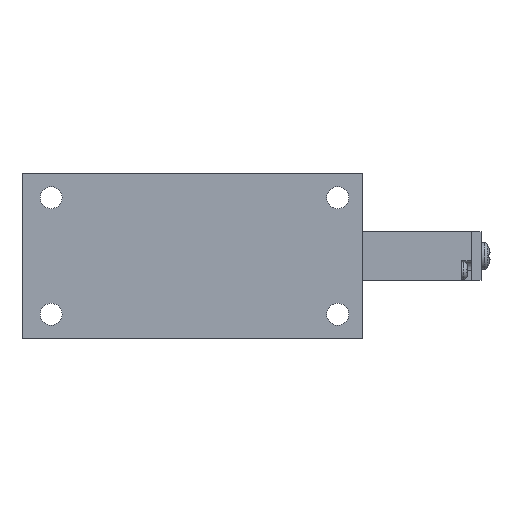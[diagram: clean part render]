
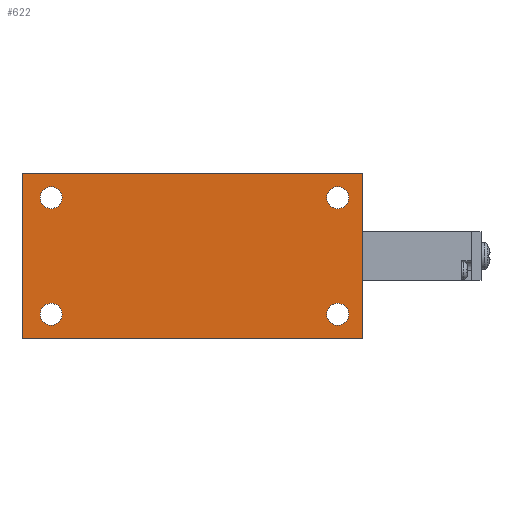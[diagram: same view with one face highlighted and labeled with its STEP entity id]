
A CAD part, front view. The second image highlights one B-rep face of the part: STEP entity #622.
In plain terms, the highlighted planar face has unit normal (0, -1, 0).
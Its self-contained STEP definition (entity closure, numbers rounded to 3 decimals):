
#622=ADVANCED_FACE('',(#1280,#1281,#1282,#1283,#1284),#1285,.F.);
#1280=FACE_OUTER_BOUND('',#1977,.T.);
#1281=FACE_BOUND('',#1978,.T.);
#1282=FACE_BOUND('',#1979,.T.);
#1283=FACE_BOUND('',#1980,.T.);
#1284=FACE_BOUND('',#1981,.T.);
#1285=PLANE('',#1982);
#1977=EDGE_LOOP('',(#4306,#4307,#4308,#4309));
#1978=EDGE_LOOP('',(#4310));
#1979=EDGE_LOOP('',(#4311));
#1980=EDGE_LOOP('',(#4312));
#1981=EDGE_LOOP('',(#4313));
#1982=AXIS2_PLACEMENT_3D('',#4314,#4315,#4316);
#4306=ORIENTED_EDGE('',*,*,#5126,.T.);
#4307=ORIENTED_EDGE('',*,*,#5127,.F.);
#4308=ORIENTED_EDGE('',*,*,#5128,.F.);
#4309=ORIENTED_EDGE('',*,*,#5116,.T.);
#4310=ORIENTED_EDGE('',*,*,#5129,.F.);
#4311=ORIENTED_EDGE('',*,*,#5130,.F.);
#4312=ORIENTED_EDGE('',*,*,#5131,.F.);
#4313=ORIENTED_EDGE('',*,*,#5132,.F.);
#4314=CARTESIAN_POINT('',(0.0,0.0,17.0));
#4315=DIRECTION('',(-0.0,1.0,0.0));
#4316=DIRECTION('',(1.0,0.0,0.0));
#5116=EDGE_CURVE('',#6339,#6337,#6340,.T.);
#5126=EDGE_CURVE('',#6337,#6357,#6358,.T.);
#5127=EDGE_CURVE('',#6359,#6357,#6360,.T.);
#5128=EDGE_CURVE('',#6339,#6359,#6361,.T.);
#5129=EDGE_CURVE('',#6362,#6362,#6363,.T.);
#5130=EDGE_CURVE('',#6364,#6364,#6365,.T.);
#5131=EDGE_CURVE('',#6366,#6366,#6367,.T.);
#5132=EDGE_CURVE('',#6368,#6368,#6369,.T.);
#6337=VERTEX_POINT('',#8421);
#6339=VERTEX_POINT('',#8424);
#6340=LINE('',#8425,#8426);
#6357=VERTEX_POINT('',#8448);
#6358=LINE('',#8449,#8450);
#6359=VERTEX_POINT('',#8451);
#6360=LINE('',#8452,#8453);
#6361=LINE('',#8454,#8455);
#6362=VERTEX_POINT('',#8456);
#6363=CIRCLE('',#8457,2.25);
#6364=VERTEX_POINT('',#8458);
#6365=CIRCLE('',#8459,2.25);
#6366=VERTEX_POINT('',#8460);
#6367=CIRCLE('',#8461,2.25);
#6368=VERTEX_POINT('',#8462);
#6369=CIRCLE('',#8463,2.25);
#8421=CARTESIAN_POINT('',(0.0,0.0,-17.0));
#8424=CARTESIAN_POINT('',(0.0,0.0,17.0));
#8425=CARTESIAN_POINT('',(0.0,0.0,17.0));
#8426=VECTOR('',#9464,1.0);
#8448=CARTESIAN_POINT('',(70.0,0.0,-17.0));
#8449=CARTESIAN_POINT('',(0.0,0.0,-17.0));
#8450=VECTOR('',#9482,1.0);
#8451=CARTESIAN_POINT('',(70.0,0.0,17.0));
#8452=CARTESIAN_POINT('',(70.0,0.0,17.0));
#8453=VECTOR('',#9483,1.0);
#8454=CARTESIAN_POINT('',(0.0,0.0,17.0));
#8455=VECTOR('',#9484,1.0);
#8456=CARTESIAN_POINT('',(6.0,0.0,14.25));
#8457=AXIS2_PLACEMENT_3D('',#9485,#9486,#9487);
#8458=CARTESIAN_POINT('',(65.0,0.0,-9.75));
#8459=AXIS2_PLACEMENT_3D('',#9488,#9489,#9490);
#8460=CARTESIAN_POINT('',(6.0,0.0,-9.75));
#8461=AXIS2_PLACEMENT_3D('',#9491,#9492,#9493);
#8462=CARTESIAN_POINT('',(65.0,0.0,14.25));
#8463=AXIS2_PLACEMENT_3D('',#9494,#9495,#9496);
#9464=DIRECTION('',(0.0,0.0,-1.0));
#9482=DIRECTION('',(1.0,0.0,0.0));
#9483=DIRECTION('',(0.0,0.0,-1.0));
#9484=DIRECTION('',(1.0,0.0,0.0));
#9485=CARTESIAN_POINT('',(6.0,0.0,12.0));
#9486=DIRECTION('',(0.0,-1.0,0.0));
#9487=DIRECTION('',(0.0,0.0,1.0));
#9488=CARTESIAN_POINT('',(65.0,0.0,-12.0));
#9489=DIRECTION('',(0.0,-1.0,0.0));
#9490=DIRECTION('',(0.0,0.0,1.0));
#9491=CARTESIAN_POINT('',(6.0,0.0,-12.0));
#9492=DIRECTION('',(0.0,-1.0,0.0));
#9493=DIRECTION('',(0.0,0.0,1.0));
#9494=CARTESIAN_POINT('',(65.0,0.0,12.0));
#9495=DIRECTION('',(0.0,-1.0,0.0));
#9496=DIRECTION('',(0.0,0.0,1.0));
